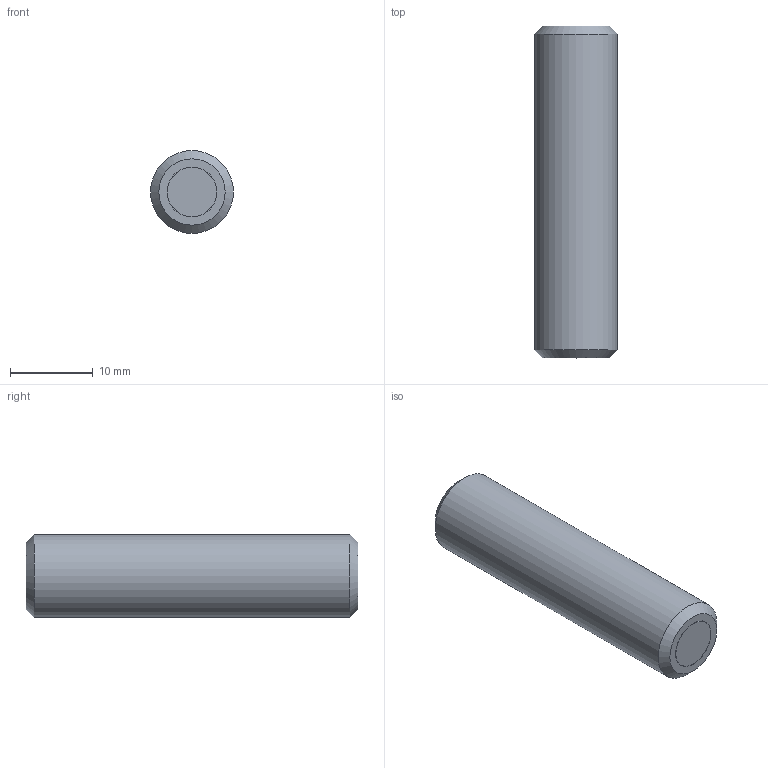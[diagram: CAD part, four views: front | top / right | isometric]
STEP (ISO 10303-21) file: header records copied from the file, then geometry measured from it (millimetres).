
FILE_DESCRIPTION(/* description */ ('STEP AP214'),/* implementation_level */ '2;1');
FILE_NAME(/* name */ 'Grub screw with retaining magnet GN 913.6-M10-40-ND',/* time_stamp */ '2023-10-03T11:27:01+02:00',/* author */ ('License CC BY-ND 4.0'),/* organization */ ('CADENAS'),/* preprocessor_version */ 'ST-DEVELOPER v19.3',/* originating_system */ 'PARTsolutions',/* authorisation */ ' ');
FILE_SCHEMA (('AUTOMOTIVE_DESIGN {1 0 10303 214 3 1 1}'));
Length unit declared in the file: millimetre
Products named in the file (1): Grub screw with retaining magnet GN 913.6-M10-40-ND
Bounding box: 10 x 40 x 10 mm (x, y, z)
Volume: 2999.3 mm3; surface area: 1460.9 mm2
Topology: 1 solids, 1 shells, 22 faces, 46 edges, 28 vertices
Faces by surface type: plane 16, cone 3, cylinder 3
Full cylindrical faces by diameter (mm): 5.96 x1, 6 x1, 10 x1
Entity records: 566 total; most frequent: DIRECTION 98, CARTESIAN_POINT 88, ORIENTED_EDGE 76, EDGE_CURVE 38, AXIS2_PLACEMENT_3D 37, FACE_BOUND 31, EDGE_LOOP 30, VERTEX_POINT 27
